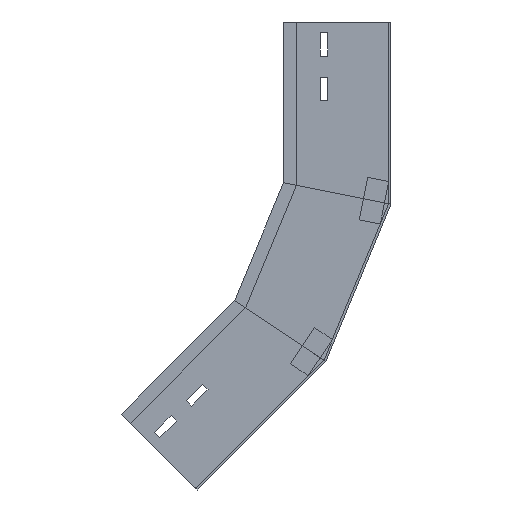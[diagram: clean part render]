
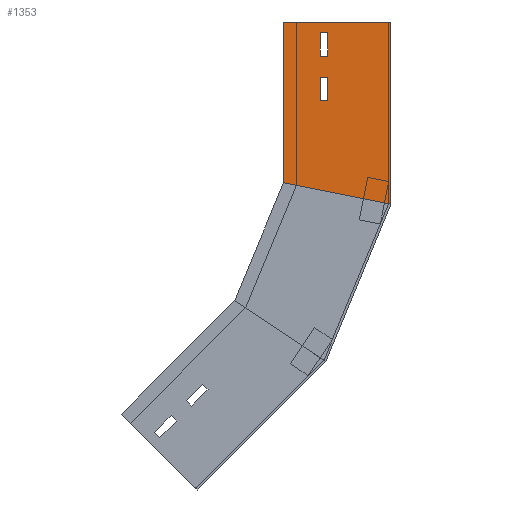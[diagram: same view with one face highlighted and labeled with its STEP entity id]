
A CAD part, left-side view. The second image highlights one B-rep face of the part: STEP entity #1353.
In plain terms, the highlighted planar face has unit normal (-1, 0, 0) as drawn and (1, 0, 0) by its records, which use the part's own axes.
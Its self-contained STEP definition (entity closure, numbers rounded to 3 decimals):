
#3 = AXIS2_PLACEMENT_3D ( 'NONE', #1277, #618, #1041 ) ;
#9 = ORIENTED_EDGE ( 'NONE', *, *, #1035, .F. ) ;
#11 = DIRECTION ( 'NONE',  ( 0., -0.831, -0.556 ) ) ;
#16 = DIRECTION ( 'NONE',  ( 0., -0.707, -0.707 ) ) ;
#18 = LINE ( 'NONE', #497, #141 ) ;
#44 = EDGE_CURVE ( 'NONE', #670, #382, #467, .T. ) ;
#52 = DIRECTION ( 'NONE',  ( 0., -0.707, 0.707 ) ) ;
#66 = CARTESIAN_POINT ( 'NONE',  ( 0., 199.789, -371.73 ) ) ;
#74 = VERTEX_POINT ( 'NONE', #591 ) ;
#85 = VERTEX_POINT ( 'NONE', #448 ) ;
#108 = ORIENTED_EDGE ( 'NONE', *, *, #536, .T. ) ;
#136 = VECTOR ( 'NONE', #344, 1000. ) ;
#141 = VECTOR ( 'NONE', #11, 1000. ) ;
#144 = FACE_BOUND ( 'NONE', #655, .T. ) ;
#158 = EDGE_LOOP ( 'NONE', ( #108, #1475, #345, #689 ) ) ;
#169 = DIRECTION ( 'NONE',  ( 0., 0.707, -0.707 ) ) ;
#201 = ORIENTED_EDGE ( 'NONE', *, *, #564, .F. ) ;
#221 = CARTESIAN_POINT ( 'NONE',  ( 0., 215.346, -387.287 ) ) ;
#254 = FACE_BOUND ( 'NONE', #1166, .T. ) ;
#259 = CARTESIAN_POINT ( 'NONE',  ( 0., 175.274, -337.315 ) ) ;
#262 = LINE ( 'NONE', #391, #1409 ) ;
#298 = ORIENTED_EDGE ( 'NONE', *, *, #44, .F. ) ;
#308 = DIRECTION ( 'NONE',  ( 0., 0.707, 0.707 ) ) ;
#325 = CARTESIAN_POINT ( 'NONE',  ( 0., 60.655, -316.035 ) ) ;
#330 = EDGE_CURVE ( 'NONE', #382, #822, #692, .T. ) ;
#344 = DIRECTION ( 'NONE',  ( 0., 0.707, -0.707 ) ) ;
#345 = ORIENTED_EDGE ( 'NONE', *, *, #360, .T. ) ;
#360 = EDGE_CURVE ( 'NONE', #1090, #420, #1487, .T. ) ;
#373 = EDGE_CURVE ( 'NONE', #902, #420, #1137, .T. ) ;
#382 = VERTEX_POINT ( 'NONE', #559 ) ;
#390 = LINE ( 'NONE', #944, #998 ) ;
#391 = CARTESIAN_POINT ( 'NONE',  ( 0., 220.295, -382.337 ) ) ;
#397 = CARTESIAN_POINT ( 'NONE',  ( 0., 170.324, -342.265 ) ) ;
#420 = VERTEX_POINT ( 'NONE', #1259 ) ;
#448 = CARTESIAN_POINT ( 'NONE',  ( 0., 60.655, -316.035 ) ) ;
#458 = EDGE_CURVE ( 'NONE', #85, #1090, #1352, .T. ) ;
#467 = LINE ( 'NONE', #221, #1046 ) ;
#485 = CARTESIAN_POINT ( 'NONE',  ( 0., 190.83, -352.872 ) ) ;
#487 = PLANE ( 'NONE',  #3 ) ;
#497 = CARTESIAN_POINT ( 'NONE',  ( 0., 86.366, -298.856 ) ) ;
#511 = VECTOR ( 'NONE', #803, 1000. ) ;
#534 = VECTOR ( 'NONE', #829, 1000. ) ;
#536 = EDGE_CURVE ( 'NONE', #902, #85, #18, .T. ) ;
#542 = CARTESIAN_POINT ( 'NONE',  ( 0., 185.88, -357.821 ) ) ;
#557 = VECTOR ( 'NONE', #793, 1000. ) ;
#559 = CARTESIAN_POINT ( 'NONE',  ( 0., 215.346, -387.287 ) ) ;
#564 = EDGE_CURVE ( 'NONE', #74, #1074, #1038, .T. ) ;
#585 = CARTESIAN_POINT ( 'NONE',  ( 0., 131.366, -245.324 ) ) ;
#591 = CARTESIAN_POINT ( 'NONE',  ( 0., 185.88, -357.821 ) ) ;
#605 = LINE ( 'NONE', #259, #709 ) ;
#613 = VECTOR ( 'NONE', #308, 1000. ) ;
#618 = DIRECTION ( 'NONE',  ( -1., 0., 0. ) ) ;
#655 = EDGE_LOOP ( 'NONE', ( #716, #826, #298, #831 ) ) ;
#669 = CARTESIAN_POINT ( 'NONE',  ( 0., 145.431, -259.389 ) ) ;
#670 = VERTEX_POINT ( 'NONE', #66 ) ;
#689 = ORIENTED_EDGE ( 'NONE', *, *, #373, .F. ) ;
#692 = LINE ( 'NONE', #906, #511 ) ;
#709 = VECTOR ( 'NONE', #16, 1000. ) ;
#716 = ORIENTED_EDGE ( 'NONE', *, *, #966, .F. ) ;
#783 = LINE ( 'NONE', #1114, #952 ) ;
#793 = DIRECTION ( 'NONE',  ( 0., 0.707, -0.707 ) ) ;
#803 = DIRECTION ( 'NONE',  ( 0., 0.707, 0.707 ) ) ;
#822 = VERTEX_POINT ( 'NONE', #873 ) ;
#826 = ORIENTED_EDGE ( 'NONE', *, *, #330, .F. ) ;
#829 = DIRECTION ( 'NONE',  ( 0., 0.707, 0.707 ) ) ;
#831 = ORIENTED_EDGE ( 'NONE', *, *, #1044, .F. ) ;
#866 = LINE ( 'NONE', #542, #881 ) ;
#873 = CARTESIAN_POINT ( 'NONE',  ( 0., 220.295, -382.337 ) ) ;
#876 = ORIENTED_EDGE ( 'NONE', *, *, #941, .F. ) ;
#877 = CARTESIAN_POINT ( 'NONE',  ( 0., 204.739, -366.78 ) ) ;
#881 = VECTOR ( 'NONE', #169, 1000. ) ;
#896 = ORIENTED_EDGE ( 'NONE', *, *, #927, .F. ) ;
#902 = VERTEX_POINT ( 'NONE', #669 ) ;
#906 = CARTESIAN_POINT ( 'NONE',  ( 0., 220.295, -382.337 ) ) ;
#927 = EDGE_CURVE ( 'NONE', #1074, #1042, #783, .T. ) ;
#941 = EDGE_CURVE ( 'NONE', #1467, #74, #866, .T. ) ;
#944 = CARTESIAN_POINT ( 'NONE',  ( 0., 204.739, -366.78 ) ) ;
#952 = VECTOR ( 'NONE', #1208, 1000. ) ;
#957 = CARTESIAN_POINT ( 'NONE',  ( 0., 190.83, -352.872 ) ) ;
#966 = EDGE_CURVE ( 'NONE', #822, #1233, #262, .T. ) ;
#998 = VECTOR ( 'NONE', #1297, 1000. ) ;
#1035 = EDGE_CURVE ( 'NONE', #1042, #1467, #605, .T. ) ;
#1038 = LINE ( 'NONE', #485, #534 ) ;
#1041 = DIRECTION ( 'NONE',  ( 0., 0., 1. ) ) ;
#1042 = VERTEX_POINT ( 'NONE', #1059 ) ;
#1044 = EDGE_CURVE ( 'NONE', #1233, #670, #390, .T. ) ;
#1046 = VECTOR ( 'NONE', #1247, 1000. ) ;
#1059 = CARTESIAN_POINT ( 'NONE',  ( 0., 175.274, -337.315 ) ) ;
#1074 = VERTEX_POINT ( 'NONE', #957 ) ;
#1090 = VERTEX_POINT ( 'NONE', #1442 ) ;
#1114 = CARTESIAN_POINT ( 'NONE',  ( 0., 190.83, -352.872 ) ) ;
#1137 = LINE ( 'NONE', #585, #136 ) ;
#1166 = EDGE_LOOP ( 'NONE', ( #896, #201, #876, #9 ) ) ;
#1208 = DIRECTION ( 'NONE',  ( 0., -0.707, 0.707 ) ) ;
#1233 = VERTEX_POINT ( 'NONE', #877 ) ;
#1247 = DIRECTION ( 'NONE',  ( 0., 0.707, -0.707 ) ) ;
#1259 = CARTESIAN_POINT ( 'NONE',  ( 0., 251.291, -365.25 ) ) ;
#1277 = CARTESIAN_POINT ( 'NONE',  ( 0., 60.655, -316.035 ) ) ;
#1297 = DIRECTION ( 'NONE',  ( 0., -0.707, -0.707 ) ) ;
#1352 = LINE ( 'NONE', #325, #557 ) ;
#1353 = ADVANCED_FACE ( 'NONE', ( #144, #254, #1379 ), #487, .F. ) ;
#1379 = FACE_OUTER_BOUND ( 'NONE', #158, .T. ) ;
#1409 = VECTOR ( 'NONE', #52, 1000. ) ;
#1442 = CARTESIAN_POINT ( 'NONE',  ( 0., 180.581, -435.96 ) ) ;
#1453 = CARTESIAN_POINT ( 'NONE',  ( 0., 180.581, -435.96 ) ) ;
#1467 = VERTEX_POINT ( 'NONE', #397 ) ;
#1475 = ORIENTED_EDGE ( 'NONE', *, *, #458, .T. ) ;
#1487 = LINE ( 'NONE', #1453, #613 ) ;
